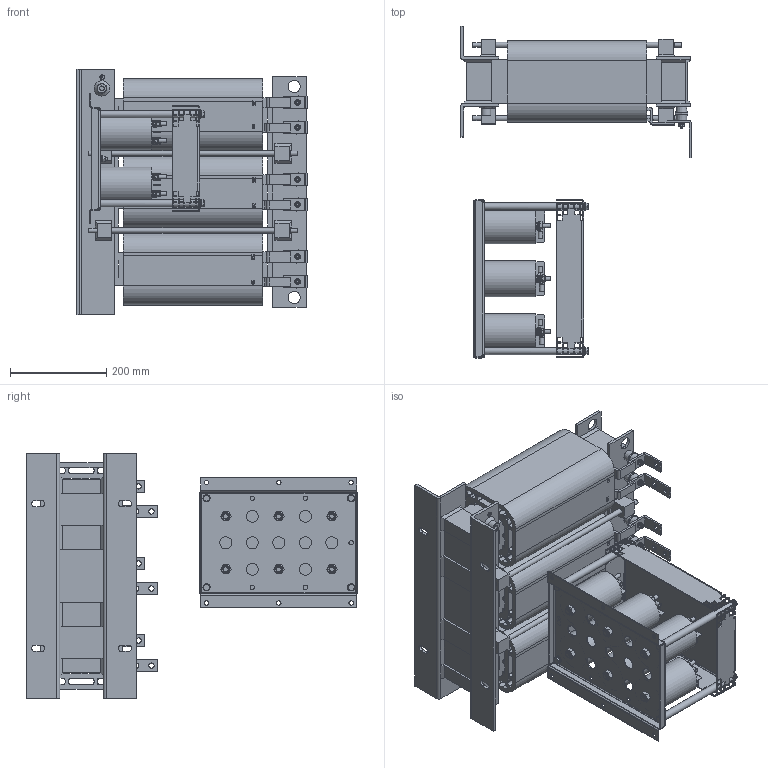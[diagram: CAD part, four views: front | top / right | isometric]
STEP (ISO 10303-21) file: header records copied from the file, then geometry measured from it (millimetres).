
FILE_DESCRIPTION(/* description */ ('raw material description'),/* implementation_level */ '2;1');
FILE_NAME(/* name */ 'C:\Users\Oliver.Volic\Desktop\FN5040HV-165-99.stp',/* time_stamp */ '2020-02-17T12:41:07+01:00',/* author */ ('Oliver.Volic'),/* organization */ ('Schaffner EMV AG'),/* preprocessor_version */ 'ST-DEVELOPER v16.5',/* originating_system */ 'Autodesk Inventor 2017',/* authorisation */ '');
FILE_SCHEMA (('CONFIG_CONTROL_DESIGN'));
Products named in the file (1): FN5040HV-165-99
Bounding box: 478 x 688.36 x 510 mm (x, y, z)
Volume: 25597993.8 mm3; surface area: 3694644.3 mm2
Topology: 7 solids, 7 shells, 3793 faces, 10599 edges, 6894 vertices
Faces by surface type: plane 2379, cylinder 892, bspline 244, cone 188, torus 90
Full cylindrical faces by diameter (mm): 6 x13, 6.3 x6, 6.4 x6, 7.1 x19, 8 x23, 8.3 x8, 8.4 x1, 9 x17, 9.5 x19, 10 x11, 11 x13, 11.8 x1, 12 x21, 12.611 x8, 15 x4, 18 x4, 20 x1, 25 x13, 75 x6
Entity records: 128883 total; most frequent: CARTESIAN_POINT 29976, ORIENTED_EDGE 20366, DIRECTION 18304, EDGE_CURVE 10171, LINE 6862, VECTOR 6862, VERTEX_POINT 6786, AXIS2_PLACEMENT_3D 5721
